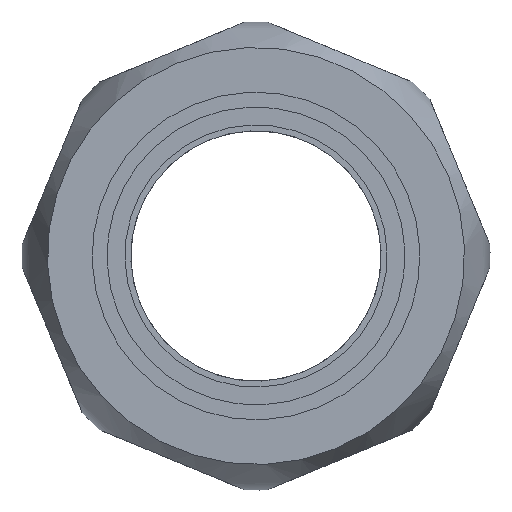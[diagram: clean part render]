
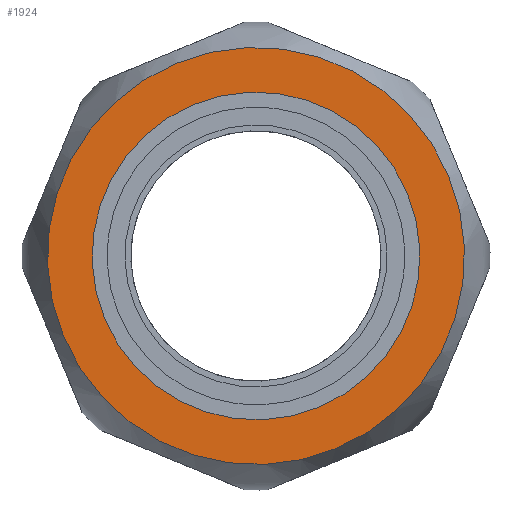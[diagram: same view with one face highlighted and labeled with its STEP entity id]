
A CAD part, left-side view. The second image highlights one B-rep face of the part: STEP entity #1924.
In plain terms, the highlighted planar face has unit normal (-1, 0, 0).
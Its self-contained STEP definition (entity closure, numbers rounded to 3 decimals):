
#1861=CARTESIAN_POINT('',(0.0,17.5,0.0));
#1862=VERTEX_POINT('',#1861);
#1863=CARTESIAN_POINT('',(0.0,0.0,0.0));
#1864=DIRECTION('',(1.0,0.0,0.0));
#1865=DIRECTION('',(0.0,1.0,0.0));
#1866=AXIS2_PLACEMENT_3D('',#1863,#1864,#1865);
#1867=CIRCLE('',#1866,17.5);
#1868=EDGE_CURVE('',#1862,#1862,#1867,.T.);
#1898=CARTESIAN_POINT('',(0.0,13.75,0.0));
#1899=VERTEX_POINT('',#1898);
#1900=CARTESIAN_POINT('',(0.0,0.0,0.0));
#1901=DIRECTION('',(1.0,0.0,0.0));
#1902=DIRECTION('',(0.0,1.0,0.0));
#1903=AXIS2_PLACEMENT_3D('',#1900,#1901,#1902);
#1904=CIRCLE('',#1903,13.75);
#1905=EDGE_CURVE('',#1899,#1899,#1904,.T.);
#1913=CARTESIAN_POINT('',(0.0,15.625,0.0));
#1914=DIRECTION('',(-1.0,0.0,0.0));
#1915=DIRECTION('',(0.0,0.0,1.0));
#1916=AXIS2_PLACEMENT_3D('',#1913,#1914,#1915);
#1917=PLANE('',#1916);
#1918=ORIENTED_EDGE('',*,*,#1868,.F.);
#1919=EDGE_LOOP('',(#1918));
#1920=FACE_OUTER_BOUND('',#1919,.T.);
#1921=ORIENTED_EDGE('',*,*,#1905,.T.);
#1922=EDGE_LOOP('',(#1921));
#1923=FACE_BOUND('',#1922,.T.);
#1924=ADVANCED_FACE('',(#1920,#1923),#1917,.T.);
